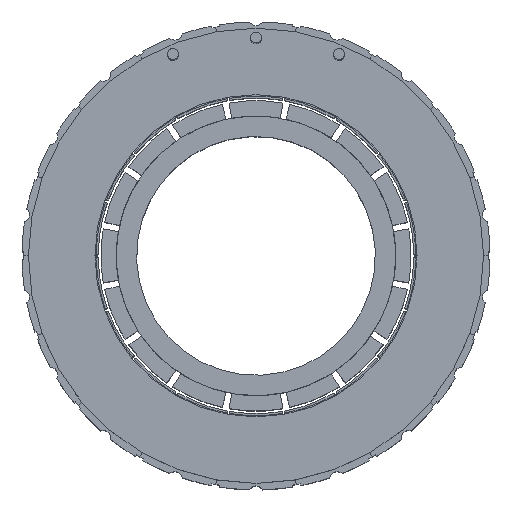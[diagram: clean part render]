
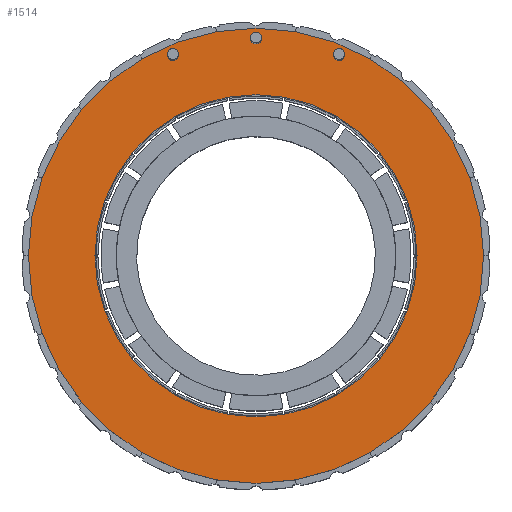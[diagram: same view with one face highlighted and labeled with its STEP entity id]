
A CAD part, top view. The second image highlights one B-rep face of the part: STEP entity #1514.
In plain terms, the highlighted planar face has unit normal (0, 0, 1).
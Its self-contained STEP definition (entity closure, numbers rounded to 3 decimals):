
#155 = CARTESIAN_POINT ( 'NONE',  ( 17.344, 39.265, 45. ) ) ;
#161 = VERTEX_POINT ( 'NONE', #3435 ) ;
#325 = DIRECTION ( 'NONE',  ( 0., 0., 1. ) ) ;
#346 = CARTESIAN_POINT ( 'NONE',  ( 0., 0., 45. ) ) ;
#400 = AXIS2_PLACEMENT_3D ( 'NONE', #346, #1164, #679 ) ;
#471 = CARTESIAN_POINT ( 'NONE',  ( -1.08, 42.5, 45. ) ) ;
#581 = EDGE_CURVE ( 'NONE', #1587, #1045, #4054, .T. ) ;
#630 = DIRECTION ( 'NONE',  ( 0., 0., 1. ) ) ;
#671 = EDGE_LOOP ( 'NONE', ( #1623, #4148 ) ) ;
#679 = DIRECTION ( 'NONE',  ( 1., 0., 0. ) ) ;
#700 = DIRECTION ( 'NONE',  ( 1., 0., 0. ) ) ;
#723 = ORIENTED_EDGE ( 'NONE', *, *, #4347, .F. ) ;
#745 = CIRCLE ( 'NONE', #2529, 31.5 ) ;
#789 = CARTESIAN_POINT ( 'NONE',  ( -44.5, 0., 45. ) ) ;
#836 = CARTESIAN_POINT ( 'NONE',  ( 0., 0., 45. ) ) ;
#863 = VERTEX_POINT ( 'NONE', #471 ) ;
#893 = DIRECTION ( 'NONE',  ( 0., 0., 1. ) ) ;
#1045 = VERTEX_POINT ( 'NONE', #155 ) ;
#1146 = EDGE_CURVE ( 'NONE', #2390, #5125, #3533, .T. ) ;
#1164 = DIRECTION ( 'NONE',  ( 0., 0., 1. ) ) ;
#1166 = CARTESIAN_POINT ( 'NONE',  ( 0., 42.5, 45. ) ) ;
#1212 = CARTESIAN_POINT ( 'NONE',  ( 0., 0., 45. ) ) ;
#1237 = VERTEX_POINT ( 'NONE', #1921 ) ;
#1252 = FACE_BOUND ( 'NONE', #3111, .T. ) ;
#1287 = DIRECTION ( 'NONE',  ( 1., 0., 0. ) ) ;
#1290 = DIRECTION ( 'NONE',  ( 0., 0., 1. ) ) ;
#1485 = CARTESIAN_POINT ( 'NONE',  ( -17.344, 39.265, 45. ) ) ;
#1514 = ADVANCED_FACE ( 'NONE', ( #3369, #5150, #3031, #3410, #1252 ), #4762, .T. ) ;
#1535 = EDGE_CURVE ( 'NONE', #863, #1237, #3243, .T. ) ;
#1561 = DIRECTION ( 'NONE',  ( 0., 0., 1. ) ) ;
#1587 = VERTEX_POINT ( 'NONE', #4489 ) ;
#1623 = ORIENTED_EDGE ( 'NONE', *, *, #2609, .T. ) ;
#1631 = DIRECTION ( 'NONE',  ( 1., 0., 0. ) ) ;
#1634 = CIRCLE ( 'NONE', #3821, 1.08 ) ;
#1899 = AXIS2_PLACEMENT_3D ( 'NONE', #4816, #1561, #2851 ) ;
#1921 = CARTESIAN_POINT ( 'NONE',  ( 1.08, 42.5, 45. ) ) ;
#1938 = DIRECTION ( 'NONE',  ( 1., 0., 0. ) ) ;
#1949 = ORIENTED_EDGE ( 'NONE', *, *, #2082, .F. ) ;
#2015 = VERTEX_POINT ( 'NONE', #789 ) ;
#2039 = ORIENTED_EDGE ( 'NONE', *, *, #4175, .F. ) ;
#2082 = EDGE_CURVE ( 'NONE', #4516, #161, #745, .T. ) ;
#2153 = DIRECTION ( 'NONE',  ( 0., 0., 1. ) ) ;
#2267 = CIRCLE ( 'NONE', #3180, 1.08 ) ;
#2351 = VERTEX_POINT ( 'NONE', #3197 ) ;
#2358 = DIRECTION ( 'NONE',  ( 0., 0., 1. ) ) ;
#2390 = VERTEX_POINT ( 'NONE', #1485 ) ;
#2517 = DIRECTION ( 'NONE',  ( 1., 0., 0. ) ) ;
#2529 = AXIS2_PLACEMENT_3D ( 'NONE', #1212, #1290, #2517 ) ;
#2607 = AXIS2_PLACEMENT_3D ( 'NONE', #4867, #4844, #2707 ) ;
#2609 = EDGE_CURVE ( 'NONE', #2015, #2351, #4968, .T. ) ;
#2651 = CARTESIAN_POINT ( 'NONE',  ( -15.184, 39.265, 45. ) ) ;
#2691 = AXIS2_PLACEMENT_3D ( 'NONE', #836, #893, #1287 ) ;
#2707 = DIRECTION ( 'NONE',  ( 1., 0., 0. ) ) ;
#2842 = ORIENTED_EDGE ( 'NONE', *, *, #5303, .F. ) ;
#2851 = DIRECTION ( 'NONE',  ( 1., 0., 0. ) ) ;
#2899 = CIRCLE ( 'NONE', #1899, 1.08 ) ;
#2926 = DIRECTION ( 'NONE',  ( 1., 0., 0. ) ) ;
#3031 = FACE_BOUND ( 'NONE', #3582, .T. ) ;
#3064 = AXIS2_PLACEMENT_3D ( 'NONE', #4610, #325, #1631 ) ;
#3111 = EDGE_LOOP ( 'NONE', ( #2842, #1949 ) ) ;
#3180 = AXIS2_PLACEMENT_3D ( 'NONE', #1166, #2358, #4097 ) ;
#3197 = CARTESIAN_POINT ( 'NONE',  ( 44.5, 0., 45. ) ) ;
#3243 = CIRCLE ( 'NONE', #3702, 1.08 ) ;
#3253 = CARTESIAN_POINT ( 'NONE',  ( 0., 0., 45. ) ) ;
#3365 = CARTESIAN_POINT ( 'NONE',  ( 0., 0., 45. ) ) ;
#3369 = FACE_BOUND ( 'NONE', #4011, .T. ) ;
#3410 = FACE_OUTER_BOUND ( 'NONE', #671, .T. ) ;
#3435 = CARTESIAN_POINT ( 'NONE',  ( -31.5, 0., 45. ) ) ;
#3533 = CIRCLE ( 'NONE', #2607, 1.08 ) ;
#3582 = EDGE_LOOP ( 'NONE', ( #4508, #4327 ) ) ;
#3702 = AXIS2_PLACEMENT_3D ( 'NONE', #4915, #4521, #1938 ) ;
#3821 = AXIS2_PLACEMENT_3D ( 'NONE', #5494, #2153, #3892 ) ;
#3892 = DIRECTION ( 'NONE',  ( 1., 0., 0. ) ) ;
#3906 = EDGE_LOOP ( 'NONE', ( #4571, #723 ) ) ;
#4011 = EDGE_LOOP ( 'NONE', ( #4015, #2039 ) ) ;
#4015 = ORIENTED_EDGE ( 'NONE', *, *, #1146, .F. ) ;
#4018 = EDGE_CURVE ( 'NONE', #1237, #863, #2267, .T. ) ;
#4054 = CIRCLE ( 'NONE', #3064, 1.08 ) ;
#4066 = AXIS2_PLACEMENT_3D ( 'NONE', #3253, #630, #700 ) ;
#4097 = DIRECTION ( 'NONE',  ( 1., 0., 0. ) ) ;
#4148 = ORIENTED_EDGE ( 'NONE', *, *, #4652, .T. ) ;
#4175 = EDGE_CURVE ( 'NONE', #5125, #2390, #1634, .T. ) ;
#4327 = ORIENTED_EDGE ( 'NONE', *, *, #4018, .F. ) ;
#4347 = EDGE_CURVE ( 'NONE', #1045, #1587, #2899, .T. ) ;
#4489 = CARTESIAN_POINT ( 'NONE',  ( 15.184, 39.265, 45. ) ) ;
#4508 = ORIENTED_EDGE ( 'NONE', *, *, #1535, .F. ) ;
#4516 = VERTEX_POINT ( 'NONE', #4936 ) ;
#4521 = DIRECTION ( 'NONE',  ( 0., 0., 1. ) ) ;
#4571 = ORIENTED_EDGE ( 'NONE', *, *, #581, .F. ) ;
#4610 = CARTESIAN_POINT ( 'NONE',  ( 16.264, 39.265, 45. ) ) ;
#4652 = EDGE_CURVE ( 'NONE', #2351, #2015, #5535, .T. ) ;
#4733 = CIRCLE ( 'NONE', #400, 31.5 ) ;
#4762 = PLANE ( 'NONE',  #2691 ) ;
#4811 = AXIS2_PLACEMENT_3D ( 'NONE', #3365, #5086, #2926 ) ;
#4816 = CARTESIAN_POINT ( 'NONE',  ( 16.264, 39.265, 45. ) ) ;
#4844 = DIRECTION ( 'NONE',  ( 0., 0., 1. ) ) ;
#4867 = CARTESIAN_POINT ( 'NONE',  ( -16.264, 39.265, 45. ) ) ;
#4915 = CARTESIAN_POINT ( 'NONE',  ( 0., 42.5, 45. ) ) ;
#4936 = CARTESIAN_POINT ( 'NONE',  ( 31.5, 0., 45. ) ) ;
#4968 = CIRCLE ( 'NONE', #4066, 44.5 ) ;
#5086 = DIRECTION ( 'NONE',  ( 0., 0., 1. ) ) ;
#5125 = VERTEX_POINT ( 'NONE', #2651 ) ;
#5150 = FACE_BOUND ( 'NONE', #3906, .T. ) ;
#5303 = EDGE_CURVE ( 'NONE', #161, #4516, #4733, .T. ) ;
#5494 = CARTESIAN_POINT ( 'NONE',  ( -16.264, 39.265, 45. ) ) ;
#5535 = CIRCLE ( 'NONE', #4811, 44.5 ) ;
